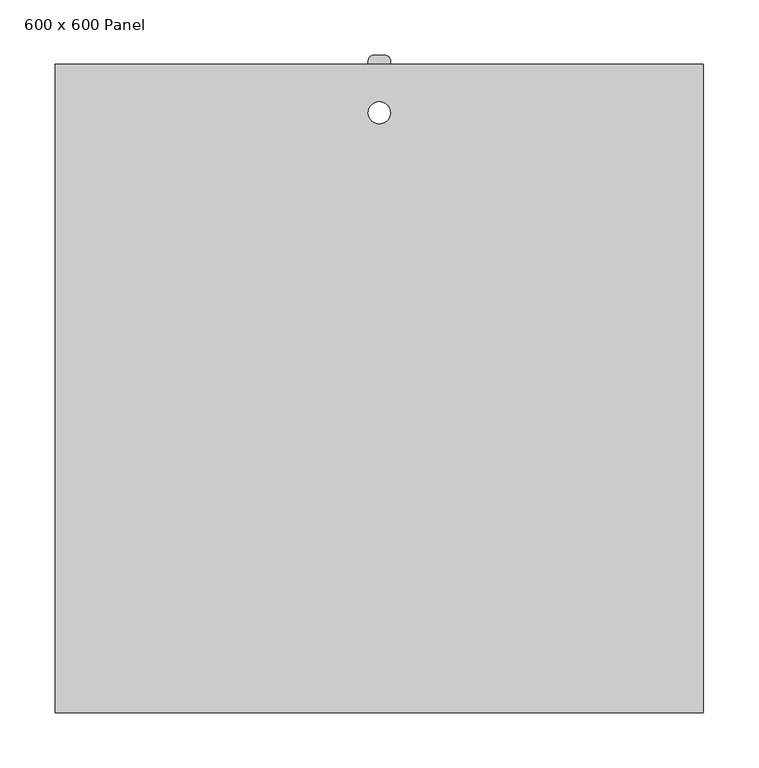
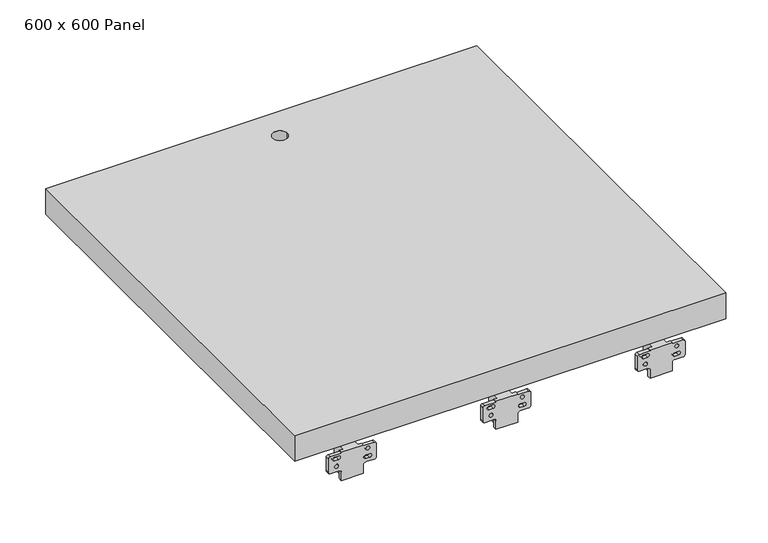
"""IFC4 building model written with IfcOpenShell, lengths in millimetres: proxy geometry, 600 x 600 Fyreshield : 600 x 600 Panel."""

from ifc_helpers import new_model, si_unit, point, frame, frame_2d, origin, place, context, project, spatial, polyline, circle_curve, trimmed, segment, composite_curve, outline, extrude, source, transform, mapped, element, save
from ifc_brep_helpers import plane_surface, cylinder_surface, revolved_surface, advanced_brep


def proxy_600_x_600_panel_0ffa8e7a(model_context):
    return source(origin(), model_context, "Body", "SolidModel", [
        extrude(outline(composite_curve([segment(trimmed(circle_curve(frame_2d((-265.0, -49.3136739)), 5.0), [point((-270.0, -49.3136739))], [point((-265.0, -44.3136739))], False, "CARTESIAN"), True, "CONTINUOUS"), segment(polyline([(-265.0, -44.3136739), (-255.6315148, -43.0), (-234.3304501, -43.0), (-234.3304501, -47.4449364)]), True, "CONTINUOUS"), segment(trimmed(circle_curve(frame_2d((-239.3304501, -47.4449364)), 5.0), [point((-234.3304501, -47.4449364))], [point((-239.3304501, -52.4449364))], False, "CARTESIAN"), True, "CONTINUOUS"), segment(polyline([(-239.3304501, -52.4449364), (-257.5, -52.4449364)]), True, "CONTINUOUS"), segment(trimmed(circle_curve(frame_2d((-257.5, -54.9449364)), 2.5), [point((-257.5, -52.4449364))], [point((-260.0, -54.9449364))], True, "CARTESIAN"), True, "CONTINUOUS"), segment(polyline([(-260.0, -54.9449364), (-260.0, -56.8136739), (-270.0, -56.8136739), (-270.0, -49.3136739)]), True, "CONTINUOUS")], self_intersect=False)), frame((200.0, 0.0, 0.0), z_axis=(1.0, 0.0, 0.0), x_axis=(0.0, 1.0, 0.0)), (0.0, 0.0, 1.0), 20.0),
        extrude(outline(composite_curve([segment(trimmed(circle_curve(frame_2d((-265.0, -49.3136739)), 5.0), [point((-270.0, -49.3136739))], [point((-265.0, -44.3136739))], False, "CARTESIAN"), True, "CONTINUOUS"), segment(polyline([(-265.0, -44.3136739), (-255.6315148, -43.0), (-234.3304501, -43.0), (-234.3304501, -47.4449364)]), True, "CONTINUOUS"), segment(trimmed(circle_curve(frame_2d((-239.3304501, -47.4449364)), 5.0), [point((-234.3304501, -47.4449364))], [point((-239.3304501, -52.4449364))], False, "CARTESIAN"), True, "CONTINUOUS"), segment(polyline([(-239.3304501, -52.4449364), (-257.5, -52.4449364)]), True, "CONTINUOUS"), segment(trimmed(circle_curve(frame_2d((-257.5, -54.9449364)), 2.5), [point((-257.5, -52.4449364))], [point((-260.0, -54.9449364))], True, "CARTESIAN"), True, "CONTINUOUS"), segment(polyline([(-260.0, -54.9449364), (-260.0, -56.8136739), (-270.0, -56.8136739), (-270.0, -49.3136739)]), True, "CONTINUOUS")], self_intersect=False)), frame((-10.0, 0.0, 0.0), z_axis=(1.0, 0.0, 0.0), x_axis=(0.0, 1.0, 0.0)), (0.0, 0.0, 1.0), 20.0),
        extrude(outline(polyline([(293.0, 293.0), (293.0, -293.0), (-293.0, -293.0), (-293.0, 293.0), (293.0, 293.0)]), holes=[composite_curve([segment(trimmed(circle_curve(frame_2d((0.0, 249.0)), 10.0), [point((-10.0, 249.0))], [point((10.0, 249.0))], True, "CARTESIAN"), True, "CONTINUOUS"), segment(trimmed(circle_curve(frame_2d((0.0, 249.0)), 10.0), [point((10.0, 249.0))], [point((-10.0, 249.0))], True, "CARTESIAN"), True, "CONTINUOUS")], self_intersect=False)]), frame((0.0, 0.0, -41.0), z_axis=(0.0, 0.0, 1.0), x_axis=(1.0, 0.0, 0.0)), (0.0, 0.0, 1.0), 37.0),
        advanced_brep(
        [(-220.0, -270.0, -49.3136739), (-220.0, -265.0, -44.3136739), (-220.0, -248.5, -42.0), (-220.0, -234.3304501, -42.0), (-220.0, -234.3304501, -47.4449364), (-220.0, -239.3304501, -52.4449364), (-220.0, -257.5, -52.4449364), (-220.0, -260.0, -54.9449364), (-220.0, -260.0, -97.128369), (-220.0, -280.0, -97.128369), (-220.0, -280.0, -56.8136739), (-220.0, -270.0, -56.8136739), (-200.0, -270.0, -49.3136739), (-200.0, -270.0, -56.8136739), (-200.0, -280.0, -56.8136739), (-200.0, -280.0, -97.128369), (-200.0, -260.0, -97.128369), (-200.0, -260.0, -54.9449364), (-200.0, -257.5, -52.4449364), (-200.0, -239.3304501, -52.4449364), (-200.0, -234.3304501, -47.4449364), (-200.0, -234.3304501, -42.0), (-200.0, -248.5, -42.0), (-200.0, -265.0, -44.3136739), (-240.020868, -280.0, -82.0), (-230.0, -280.0, -82.0), (-230.0, -285.0, -82.0), (-240.020868, -285.0, -82.0), (-242.520868, -280.0, -79.5), (-242.520868, -285.0, -79.5), (-242.520868, -280.0, -60.3136739), (-242.520868, -285.0, -60.3136739), (-240.020868, -280.0, -57.8136739), (-240.020868, -285.0, -57.8136739), (-227.5, -280.0, -82.0), (-225.0, -280.0, -84.5), (-225.0, -285.0, -84.5), (-227.5, -285.0, -82.0), (-192.5, -280.0, -82.0), (-190.0, -280.0, -82.0), (-190.0, -285.0, -82.0), (-192.5, -285.0, -82.0), (-195.0, -280.0, -84.5), (-195.0, -285.0, -84.5), (-177.479132, -280.0, -60.3136739), (-179.979132, -280.0, -57.8136739), (-179.979132, -285.0, -57.8136739), (-177.479132, -285.0, -60.3136739), (-177.479132, -280.0, -79.5), (-177.479132, -285.0, -79.5), (-179.979132, -280.0, -82.0), (-179.979132, -285.0, -82.0), (-191.239566, -280.0, -63.2011546), (-191.239566, -285.0, -63.2011546), (-186.239566, -285.0, -63.2011546), (-186.239566, -280.0, -63.2011546), (-186.239566, -280.0, -77.1125194), (-186.239566, -285.0, -77.1125194), (-186.239566, -285.0, -72.1125194), (-186.239566, -280.0, -72.1125194), (-191.239566, -280.0, -77.1125194), (-191.239566, -285.0, -77.1125194), (-191.239566, -280.0, -72.1125194), (-191.239566, -285.0, -72.1125194), (-233.760434, -280.0, -74.6125194), (-233.760434, -285.0, -74.6125194), (-228.760434, -285.0, -74.6125194), (-228.760434, -280.0, -74.6125194), (-233.760434, -280.0, -65.7011546), (-233.760434, -285.0, -65.7011546), (-228.760434, -285.0, -65.7011546), (-228.760434, -280.0, -65.7011546), (-233.760434, -280.0, -60.7011546), (-233.760434, -285.0, -60.7011546), (-228.760434, -280.0, -60.7011546), (-228.760434, -285.0, -60.7011546), (-225.0, -280.0, -57.8136739), (-225.0, -280.0, -56.8136739), (-225.0, -280.0, -97.128369), (-195.0, -280.0, -97.128369), (-195.0, -280.0, -56.8136739), (-195.0, -280.0, -57.8136739), (-225.0, -285.0, -97.128369), (-195.0, -285.0, -97.128369), (-195.0, -285.0, -57.8136739), (-195.0, -285.0, -56.8136739), (-225.0, -285.0, -56.8136739), (-225.0, -285.0, -57.8136739)],
        [
            (0, 1, circle_curve(frame((-220.0, -265.0, -49.3136739), z_axis=(-1.0, 0.0, 0.0), x_axis=(0.0, 1.0, 0.0)), 5.0)),
            (1, 2),
            (2, 3),
            (3, 4),
            (4, 5, circle_curve(frame((-220.0, -239.3304501, -47.4449364), z_axis=(-1.0, 0.0, 0.0), x_axis=(0.0, 1.0, 0.0)), 5.0)),
            (5, 6),
            (6, 7, circle_curve(frame((-220.0, -257.5, -54.9449364), z_axis=(1.0, 0.0, 0.0), x_axis=(0.0, 1.0, 0.0)), 2.5)),
            (7, 8),
            (8, 9),
            (9, 10),
            (10, 11),
            (11, 0),
            (12, 13),
            (13, 14),
            (14, 15),
            (15, 16),
            (16, 17),
            (17, 18, circle_curve(frame((-200.0, -257.5, -54.9449364), z_axis=(-1.0, 0.0, 0.0), x_axis=(0.0, 1.0, 0.0)), 2.5)),
            (18, 19),
            (19, 20, circle_curve(frame((-200.0, -239.3304501, -47.4449364), z_axis=(1.0, 0.0, 0.0), x_axis=(0.0, 1.0, 0.0)), 5.0)),
            (20, 21),
            (21, 22),
            (22, 23),
            (23, 12, circle_curve(frame((-200.0, -265.0, -49.3136739), z_axis=(1.0, 0.0, 0.0), x_axis=(0.0, 1.0, 0.0)), 5.0)),
            (11, 13),
            (12, 0),
            (7, 17),
            (16, 8),
            (6, 18),
            (5, 19),
            (4, 20),
            (3, 21),
            (2, 22),
            (1, 23),
            (24, 25),
            (25, 26),
            (26, 27),
            (27, 24),
            (28, 24, circle_curve(frame((-240.020868, -280.0, -79.5), z_axis=(0.0, -1.0, 0.0), x_axis=(-1.0, 0.0, 0.0)), 2.5)),
            (27, 29, circle_curve(frame((-240.020868, -285.0, -79.5), z_axis=(0.0, 1.0, 0.0), x_axis=(-1.0, 0.0, 0.0)), 2.5)),
            (29, 28),
            (30, 28),
            (29, 31),
            (31, 30),
            (32, 30, circle_curve(frame((-240.020868, -280.0, -60.3136739), z_axis=(0.0, -1.0, 0.0), x_axis=(-1.0, 0.0, 0.0)), 2.5)),
            (31, 33, circle_curve(frame((-240.020868, -285.0, -60.3136739), z_axis=(0.0, 1.0, 0.0), x_axis=(-1.0, 0.0, 0.0)), 2.5)),
            (33, 32),
            (34, 35, circle_curve(frame((-227.5, -280.0, -84.5), z_axis=(0.0, 1.0, 0.0), x_axis=(-1.0, 0.0, 0.0)), 2.5)),
            (35, 36),
            (36, 37, circle_curve(frame((-227.5, -285.0, -84.5), z_axis=(0.0, -1.0, 0.0), x_axis=(-1.0, 0.0, 0.0)), 2.5)),
            (37, 34),
            (25, 34),
            (37, 26),
            (38, 39),
            (39, 40),
            (40, 41),
            (41, 38),
            (42, 38, circle_curve(frame((-192.5, -280.0, -84.5), z_axis=(0.0, 1.0, 0.0), x_axis=(-1.0, 0.0, 0.0)), 2.5)),
            (41, 43, circle_curve(frame((-192.5, -285.0, -84.5), z_axis=(0.0, -1.0, 0.0), x_axis=(-1.0, 0.0, 0.0)), 2.5)),
            (43, 42),
            (44, 45, circle_curve(frame((-179.979132, -280.0, -60.3136739), z_axis=(0.0, -1.0, 0.0), x_axis=(-1.0, 0.0, 0.0)), 2.5)),
            (45, 46),
            (46, 47, circle_curve(frame((-179.979132, -285.0, -60.3136739), z_axis=(0.0, 1.0, 0.0), x_axis=(-1.0, 0.0, 0.0)), 2.5)),
            (47, 44),
            (48, 44),
            (47, 49),
            (49, 48),
            (50, 48, circle_curve(frame((-179.979132, -280.0, -79.5), z_axis=(0.0, -1.0, 0.0), x_axis=(-1.0, 0.0, 0.0)), 2.5)),
            (49, 51, circle_curve(frame((-179.979132, -285.0, -79.5), z_axis=(0.0, 1.0, 0.0), x_axis=(-1.0, 0.0, 0.0)), 2.5)),
            (51, 50),
            (39, 50),
            (51, 40),
            (52, 53),
            (53, 54, circle_curve(frame((-188.739566, -285.0, -63.2011546), z_axis=(0.0, -1.0, 0.0), x_axis=(-1.0, 0.0, 0.0)), 2.5)),
            (54, 55),
            (55, 52, circle_curve(frame((-188.739566, -280.0, -63.2011546), z_axis=(0.0, 1.0, 0.0), x_axis=(-1.0, 0.0, 0.0)), 2.5)),
            (52, 55, circle_curve(frame((-188.739566, -280.0, -63.2011546), z_axis=(0.0, 1.0, 0.0), x_axis=(-1.0, 0.0, 0.0)), 2.5)),
            (54, 53, circle_curve(frame((-188.739566, -285.0, -63.2011546), z_axis=(0.0, -1.0, 0.0), x_axis=(-1.0, 0.0, 0.0)), 2.5)),
            (56, 57),
            (57, 58, circle_curve(frame((-186.239566, -285.0, -74.6125194), z_axis=(0.0, -1.0, 0.0), x_axis=(-1.0, 0.0, 0.0)), 2.5)),
            (58, 59),
            (59, 56, circle_curve(frame((-186.239566, -280.0, -74.6125194), z_axis=(0.0, 1.0, 0.0), x_axis=(-1.0, 0.0, 0.0)), 2.5)),
            (56, 60),
            (60, 61),
            (61, 57),
            (60, 62, circle_curve(frame((-191.239566, -280.0, -74.6125194), z_axis=(0.0, 1.0, 0.0), x_axis=(-1.0, 0.0, 0.0)), 2.5)),
            (62, 63),
            (63, 61, circle_curve(frame((-191.239566, -285.0, -74.6125194), z_axis=(0.0, -1.0, 0.0), x_axis=(-1.0, 0.0, 0.0)), 2.5)),
            (58, 63),
            (62, 59),
            (64, 65),
            (65, 66, circle_curve(frame((-231.260434, -285.0, -74.6125194), z_axis=(0.0, -1.0, 0.0), x_axis=(-1.0, 0.0, 0.0)), 2.5)),
            (66, 67),
            (67, 64, circle_curve(frame((-231.260434, -280.0, -74.6125194), z_axis=(0.0, 1.0, 0.0), x_axis=(-1.0, 0.0, 0.0)), 2.5)),
            (64, 67, circle_curve(frame((-231.260434, -280.0, -74.6125194), z_axis=(0.0, 1.0, 0.0), x_axis=(-1.0, 0.0, 0.0)), 2.5)),
            (66, 65, circle_curve(frame((-231.260434, -285.0, -74.6125194), z_axis=(0.0, -1.0, 0.0), x_axis=(-1.0, 0.0, 0.0)), 2.5)),
            (68, 69),
            (69, 70),
            (70, 71),
            (71, 68),
            (68, 72, circle_curve(frame((-233.760434, -280.0, -63.2011546), z_axis=(0.0, 1.0, 0.0), x_axis=(-1.0, 0.0, 0.0)), 2.5)),
            (72, 73),
            (73, 69, circle_curve(frame((-233.760434, -285.0, -63.2011546), z_axis=(0.0, -1.0, 0.0), x_axis=(-1.0, 0.0, 0.0)), 2.5)),
            (72, 74),
            (74, 75),
            (75, 73),
            (70, 75, circle_curve(frame((-228.760434, -285.0, -63.2011546), z_axis=(0.0, -1.0, 0.0), x_axis=(-1.0, 0.0, 0.0)), 2.5)),
            (74, 71, circle_curve(frame((-228.760434, -280.0, -63.2011546), z_axis=(0.0, 1.0, 0.0), x_axis=(-1.0, 0.0, 0.0)), 2.5)),
            (32, 76),
            (76, 77),
            (77, 10),
            (9, 78),
            (78, 35),
            (42, 79),
            (79, 15),
            (14, 80),
            (80, 81),
            (81, 45),
            (36, 82),
            (82, 83),
            (83, 43),
            (46, 84),
            (84, 85),
            (85, 86),
            (86, 87),
            (87, 33),
            (87, 76),
            (81, 84),
            (77, 86),
            (85, 80),
            (79, 83),
            (82, 78),
        ],
        [
            plane_surface(frame((-220.0, -270.0, -56.8136739), z_axis=(-1.0, 0.0, 0.0), x_axis=(0.0, 0.0, 1.0))),
            plane_surface(frame((-200.0, -270.0, -56.8136739), z_axis=(1.0, 0.0, 0.0), x_axis=(0.0, 0.0, -1.0))),
            plane_surface(frame((-200.0, -270.0, -49.3136739), z_axis=(0.0, -1.0, 0.0), x_axis=(-1.0, 0.0, 0.0))),
            plane_surface(frame((-200.0, -260.0, -56.8136739), z_axis=(0.0, 1.0, 0.0), x_axis=(-1.0, 0.0, 0.0))),
            revolved_surface(polyline([(-220.0, -255.0, -54.9449364), (-200.0, -255.0, -54.9449364)]), (-220.0, -257.5, -54.9449364), (-1.0, 0.0, 0.0)),
            plane_surface(frame((-200.0, -257.5, -52.4449364), z_axis=(0.0, 0.0, -1.0), x_axis=(-1.0, 0.0, 0.0))),
            cylinder_surface(frame((-220.0, -239.3304501, -47.4449364), z_axis=(1.0, 0.0, 0.0), x_axis=(0.0, 1.0, 0.0)), 5.0),
            plane_surface(frame((-200.0, -234.3304501, -47.4449364), z_axis=(0.0, 1.0, 0.0), x_axis=(-1.0, 0.0, 0.0))),
            plane_surface(frame((-200.0, -234.3304501, -42.0), z_axis=(0.0, 0.0, 1.0), x_axis=(-1.0, 0.0, 0.0))),
            plane_surface(frame((-200.0, -248.5, -42.0), z_axis=(0.0, -0.1388641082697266, 0.9903114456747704), x_axis=(-1.0, 0.0, 0.0))),
            cylinder_surface(frame((-220.0, -265.0, -49.3136739), z_axis=(1.0, 0.0, 0.0), x_axis=(0.0, 1.0, 0.0)), 5.0),
            plane_surface(frame((-230.0, -280.0, -82.0), z_axis=(0.0, 0.0, -1.0), x_axis=(0.0, -1.0, 0.0))),
            cylinder_surface(frame((-240.020868, -285.0, -79.5), z_axis=(0.0, 1.0, 0.0), x_axis=(-1.0, 0.0, 0.0)), 2.5),
            plane_surface(frame((-242.520868, -280.0, -79.5), z_axis=(-1.0, 0.0, 0.0), x_axis=(0.0, -1.0, 0.0))),
            cylinder_surface(frame((-240.020868, -285.0, -60.3136739), z_axis=(0.0, 1.0, 0.0), x_axis=(-1.0, 0.0, 0.0)), 2.5),
            revolved_surface(polyline([(-230.0, -285.0, -84.5), (-230.0, -280.0, -84.5)]), (-227.5, -285.0, -84.5), (0.0, -1.0, 0.0)),
            plane_surface(frame((-227.5, -280.0, -82.0), z_axis=(0.0, 0.0, -1.0), x_axis=(0.0, -1.0, 0.0))),
            plane_surface(frame((-190.0, -280.0, -82.0), z_axis=(0.0, 0.0, -1.0), x_axis=(0.0, -1.0, 0.0))),
            revolved_surface(polyline([(-195.0, -285.0, -84.5), (-195.0, -280.0, -84.5)]), (-192.5, -285.0, -84.5), (0.0, -1.0, 0.0)),
            cylinder_surface(frame((-179.979132, -285.0, -60.3136739), z_axis=(0.0, 1.0, 0.0), x_axis=(-1.0, 0.0, 0.0)), 2.5),
            plane_surface(frame((-177.479132, -280.0, -60.3136739), z_axis=(1.0, 0.0, 0.0), x_axis=(0.0, -1.0, 0.0))),
            cylinder_surface(frame((-179.979132, -285.0, -79.5), z_axis=(0.0, 1.0, 0.0), x_axis=(-1.0, 0.0, 0.0)), 2.5),
            plane_surface(frame((-179.979132, -280.0, -82.0), z_axis=(0.0, 0.0, -1.0), x_axis=(0.0, -1.0, 0.0))),
            revolved_surface(polyline([(-191.239566, -280.0, -63.2011546), (-191.239566, -285.0, -63.2011546)]), (-188.739566, -280.0, -63.2011546), (0.0, 1.0, 0.0)),
            revolved_surface(polyline([(-188.739566, -280.0, -74.6125194), (-188.739566, -285.0, -74.6125194)]), (-186.239566, -280.0, -74.6125194), (0.0, 1.0, 0.0)),
            plane_surface(frame((-186.239566, -280.0, -77.1125194), z_axis=(0.0, 0.0, 1.0), x_axis=(0.0, -1.0, 0.0))),
            revolved_surface(polyline([(-193.739566, -280.0, -74.6125194), (-193.739566, -285.0, -74.6125194)]), (-191.239566, -280.0, -74.6125194), (0.0, 1.0, 0.0)),
            plane_surface(frame((-191.239566, -280.0, -72.1125194), z_axis=(0.0, 0.0, -1.0), x_axis=(0.0, -1.0, 0.0))),
            revolved_surface(polyline([(-233.760434, -280.0, -74.6125194), (-233.760434, -285.0, -74.6125194)]), (-231.260434, -280.0, -74.6125194), (0.0, 1.0, 0.0)),
            plane_surface(frame((-228.760434, -280.0, -65.7011546), z_axis=(0.0, 0.0, 1.0), x_axis=(0.0, -1.0, 0.0))),
            revolved_surface(polyline([(-236.260434, -280.0, -63.2011546), (-236.260434, -285.0, -63.2011546)]), (-233.760434, -280.0, -63.2011546), (0.0, 1.0, 0.0)),
            plane_surface(frame((-233.760434, -280.0, -60.7011546), z_axis=(0.0, 0.0, -1.0), x_axis=(0.0, -1.0, 0.0))),
            revolved_surface(polyline([(-231.260434, -280.0, -63.2011546), (-231.260434, -285.0, -63.2011546)]), (-228.760434, -280.0, -63.2011546), (0.0, 1.0, 0.0)),
            plane_surface(frame((190.0, -280.0, -82.0), z_axis=(0.0, 1.0, 0.0), x_axis=(-1.0, 0.0, 0.0))),
            plane_surface(frame((190.0, -285.0, -82.0), z_axis=(0.0, -1.0, 0.0), x_axis=(1.0, 0.0, 0.0))),
            plane_surface(frame((-240.020868, -280.0, -57.8136739), z_axis=(0.0, 0.0, 1.0), x_axis=(0.0, -1.0, 0.0))),
            plane_surface(frame((-195.0, -280.0, -57.8136739), z_axis=(0.0, 0.0, 1.0), x_axis=(0.0, -1.0, 0.0))),
            plane_surface(frame((-225.0, -285.0, -56.8136739), z_axis=(0.0, 0.0, 1.0), x_axis=(0.0, -1.0, 0.0))),
            plane_surface(frame((-225.0, -285.0, -97.128369), z_axis=(0.0, 0.0, -1.0), x_axis=(0.0, 1.0, 0.0))),
            plane_surface(frame((-225.0, -280.0, -56.8136739), z_axis=(-1.0, 0.0, 0.0), x_axis=(0.0, 0.0, -1.0))),
            plane_surface(frame((-195.0, -285.0, -56.8136739), z_axis=(1.0, 0.0, 0.0), x_axis=(0.0, 0.0, -1.0))),
        ],
        [
            (0, [[1, 2, 3, 4, 5, 6, 7, 8, 9, 10, 11, 12]]),
            (1, [[13, 14, 15, 16, 17, 18, 19, 20, 21, 22, 23, 24]]),
            (2, [[-12, 25, -13, 26]]),
            (3, [[-8, 27, -17, 28]]),
            (4, [[-7, 29, -18, -27]]),
            (5, [[-6, 30, -19, -29]]),
            (6, [[-5, 31, -20, -30]]),
            (7, [[-4, 32, -21, -31]]),
            (8, [[-3, 33, -22, -32]]),
            (9, [[-2, 34, -23, -33]]),
            (10, [[-1, -26, -24, -34]]),
            (11, [[35, 36, 37, 38]]),
            (12, [[39, -38, 40, 41]]),
            (13, [[42, -41, 43, 44]]),
            (14, [[45, -44, 46, 47]]),
            (15, [[48, 49, 50, 51]]),
            (16, [[52, -51, 53, -36]]),
            (17, [[54, 55, 56, 57]]),
            (18, [[58, -57, 59, 60]]),
            (19, [[61, 62, 63, 64]]),
            (20, [[65, -64, 66, 67]]),
            (21, [[68, -67, 69, 70]]),
            (22, [[71, -70, 72, -55]]),
            (23, [[73, 74, 75, 76]]),
            (23, [[-73, 77, -75, 78]]),
            (24, [[79, 80, 81, 82]]),
            (25, [[-79, 83, 84, 85]]),
            (26, [[-84, 86, 87, 88]]),
            (27, [[-81, 89, -87, 90]]),
            (28, [[91, 92, 93, 94]]),
            (28, [[-91, 95, -93, 96]]),
            (29, [[97, 98, 99, 100]]),
            (30, [[-97, 101, 102, 103]]),
            (31, [[-102, 104, 105, 106]]),
            (32, [[-99, 107, -105, 108]]),
            (33, [[-35, -39, -42, -45, 109, 110, 111, -10, 112, 113, -48, -52], [-94, -95], [-100, -108, -104, -101]]),
            (33, [[-54, -58, 114, 115, -15, 116, 117, 118, -61, -65, -68, -71], [-76, -77], [-82, -90, -86, -83]]),
            (34, [[-53, -50, 119, 120, 121, -59, -56, -72, -69, -66, -63, 122, 123, 124, 125, 126, -46, -43, -40, -37], [-74, -78], [-80, -85, -88, -89], [-92, -96], [-98, -103, -106, -107]]),
            (35, [[-109, -47, -126, 127]]),
            (36, [[-118, 128, -122, -62]]),
            (37, [[129, -124, 130, -116, -14, -25, -11, -111]]),
            (38, [[-112, -9, -28, -16, -115, 131, -120, 132]]),
            (39, [[-129, -110, -127, -125]]),
            (39, [[-132, -119, -49, -113]]),
            (40, [[-130, -123, -128, -117]]),
            (40, [[-131, -114, -60, -121]]),
        ],
    ),
        advanced_brep(
        [(179.979132, -280.0, -82.0), (190.0, -280.0, -82.0), (190.0, -285.0, -82.0), (179.979132, -285.0, -82.0), (177.479132, -280.0, -79.5), (177.479132, -285.0, -79.5), (177.479132, -280.0, -60.3136739), (177.479132, -285.0, -60.3136739), (179.979132, -280.0, -57.8136739), (179.979132, -285.0, -57.8136739), (192.5, -280.0, -82.0), (195.0, -280.0, -84.5), (195.0, -285.0, -84.5), (192.5, -285.0, -82.0), (227.5, -280.0, -82.0), (230.0, -280.0, -82.0), (230.0, -285.0, -82.0), (227.5, -285.0, -82.0), (225.0, -280.0, -84.5), (225.0, -285.0, -84.5), (242.520868, -280.0, -60.3136739), (240.020868, -280.0, -57.8136739), (240.020868, -285.0, -57.8136739), (242.520868, -285.0, -60.3136739), (242.520868, -280.0, -79.5), (242.520868, -285.0, -79.5), (240.020868, -280.0, -82.0), (240.020868, -285.0, -82.0), (228.760434, -280.0, -63.2011546), (228.760434, -285.0, -63.2011546), (233.760434, -285.0, -63.2011546), (233.760434, -280.0, -63.2011546), (233.760434, -280.0, -77.1125194), (233.760434, -285.0, -77.1125194), (233.760434, -285.0, -72.1125194), (233.760434, -280.0, -72.1125194), (228.760434, -280.0, -77.1125194), (228.760434, -285.0, -77.1125194), (228.760434, -280.0, -72.1125194), (228.760434, -285.0, -72.1125194), (186.239566, -280.0, -74.6125194), (186.239566, -285.0, -74.6125194), (191.239566, -285.0, -74.6125194), (191.239566, -280.0, -74.6125194), (186.239566, -280.0, -65.7011546), (186.239566, -285.0, -65.7011546), (191.239566, -285.0, -65.7011546), (191.239566, -280.0, -65.7011546), (186.239566, -280.0, -60.7011546), (186.239566, -285.0, -60.7011546), (191.239566, -280.0, -60.7011546), (191.239566, -285.0, -60.7011546), (195.0, -280.0, -57.8136739), (195.0, -280.0, -56.8136739), (200.0, -280.0, -56.8136739), (200.0, -280.0, -97.128369), (195.0, -280.0, -97.128369), (225.0, -280.0, -97.128369), (220.0, -280.0, -97.128369), (220.0, -280.0, -56.8136739), (225.0, -280.0, -56.8136739), (225.0, -280.0, -57.8136739), (195.0, -285.0, -97.128369), (225.0, -285.0, -97.128369), (225.0, -285.0, -57.8136739), (225.0, -285.0, -56.8136739), (195.0, -285.0, -56.8136739), (195.0, -285.0, -57.8136739), (220.0, -260.0, -56.8136739), (200.0, -260.0, -56.8136739), (200.0, -260.0, -97.128369), (220.0, -260.0, -97.128369)],
        [
            (0, 1),
            (1, 2),
            (2, 3),
            (3, 0),
            (4, 0, circle_curve(frame((179.979132, -280.0, -79.5), z_axis=(0.0, -1.0, 0.0), x_axis=(-1.0, 0.0, 0.0)), 2.5)),
            (3, 5, circle_curve(frame((179.979132, -285.0, -79.5), z_axis=(0.0, 1.0, 0.0), x_axis=(-1.0, 0.0, 0.0)), 2.5)),
            (5, 4),
            (6, 4),
            (5, 7),
            (7, 6),
            (8, 6, circle_curve(frame((179.979132, -280.0, -60.3136739), z_axis=(0.0, -1.0, 0.0), x_axis=(-1.0, 0.0, 0.0)), 2.5)),
            (7, 9, circle_curve(frame((179.979132, -285.0, -60.3136739), z_axis=(0.0, 1.0, 0.0), x_axis=(-1.0, 0.0, 0.0)), 2.5)),
            (9, 8),
            (10, 11, circle_curve(frame((192.5, -280.0, -84.5), z_axis=(0.0, 1.0, 0.0), x_axis=(-1.0, 0.0, 0.0)), 2.5)),
            (11, 12),
            (12, 13, circle_curve(frame((192.5, -285.0, -84.5), z_axis=(0.0, -1.0, 0.0), x_axis=(-1.0, 0.0, 0.0)), 2.5)),
            (13, 10),
            (1, 10),
            (13, 2),
            (14, 15),
            (15, 16),
            (16, 17),
            (17, 14),
            (18, 14, circle_curve(frame((227.5, -280.0, -84.5), z_axis=(0.0, 1.0, 0.0), x_axis=(-1.0, 0.0, 0.0)), 2.5)),
            (17, 19, circle_curve(frame((227.5, -285.0, -84.5), z_axis=(0.0, -1.0, 0.0), x_axis=(-1.0, 0.0, 0.0)), 2.5)),
            (19, 18),
            (20, 21, circle_curve(frame((240.020868, -280.0, -60.3136739), z_axis=(0.0, -1.0, 0.0), x_axis=(-1.0, 0.0, 0.0)), 2.5)),
            (21, 22),
            (22, 23, circle_curve(frame((240.020868, -285.0, -60.3136739), z_axis=(0.0, 1.0, 0.0), x_axis=(-1.0, 0.0, 0.0)), 2.5)),
            (23, 20),
            (24, 20),
            (23, 25),
            (25, 24),
            (26, 24, circle_curve(frame((240.020868, -280.0, -79.5), z_axis=(0.0, -1.0, 0.0), x_axis=(-1.0, 0.0, 0.0)), 2.5)),
            (25, 27, circle_curve(frame((240.020868, -285.0, -79.5), z_axis=(0.0, 1.0, 0.0), x_axis=(-1.0, 0.0, 0.0)), 2.5)),
            (27, 26),
            (15, 26),
            (27, 16),
            (28, 29),
            (29, 30, circle_curve(frame((231.260434, -285.0, -63.2011546), z_axis=(0.0, -1.0, 0.0), x_axis=(-1.0, 0.0, 0.0)), 2.5)),
            (30, 31),
            (31, 28, circle_curve(frame((231.260434, -280.0, -63.2011546), z_axis=(0.0, 1.0, 0.0), x_axis=(-1.0, 0.0, 0.0)), 2.5)),
            (28, 31, circle_curve(frame((231.260434, -280.0, -63.2011546), z_axis=(0.0, 1.0, 0.0), x_axis=(-1.0, 0.0, 0.0)), 2.5)),
            (30, 29, circle_curve(frame((231.260434, -285.0, -63.2011546), z_axis=(0.0, -1.0, 0.0), x_axis=(-1.0, 0.0, 0.0)), 2.5)),
            (32, 33),
            (33, 34, circle_curve(frame((233.760434, -285.0, -74.6125194), z_axis=(0.0, -1.0, 0.0), x_axis=(-1.0, 0.0, 0.0)), 2.5)),
            (34, 35),
            (35, 32, circle_curve(frame((233.760434, -280.0, -74.6125194), z_axis=(0.0, 1.0, 0.0), x_axis=(-1.0, 0.0, 0.0)), 2.5)),
            (32, 36),
            (36, 37),
            (37, 33),
            (36, 38, circle_curve(frame((228.760434, -280.0, -74.6125194), z_axis=(0.0, 1.0, 0.0), x_axis=(-1.0, 0.0, 0.0)), 2.5)),
            (38, 39),
            (39, 37, circle_curve(frame((228.760434, -285.0, -74.6125194), z_axis=(0.0, -1.0, 0.0), x_axis=(-1.0, 0.0, 0.0)), 2.5)),
            (34, 39),
            (38, 35),
            (40, 41),
            (41, 42, circle_curve(frame((188.739566, -285.0, -74.6125194), z_axis=(0.0, -1.0, 0.0), x_axis=(-1.0, 0.0, 0.0)), 2.5)),
            (42, 43),
            (43, 40, circle_curve(frame((188.739566, -280.0, -74.6125194), z_axis=(0.0, 1.0, 0.0), x_axis=(-1.0, 0.0, 0.0)), 2.5)),
            (40, 43, circle_curve(frame((188.739566, -280.0, -74.6125194), z_axis=(0.0, 1.0, 0.0), x_axis=(-1.0, 0.0, 0.0)), 2.5)),
            (42, 41, circle_curve(frame((188.739566, -285.0, -74.6125194), z_axis=(0.0, -1.0, 0.0), x_axis=(-1.0, 0.0, 0.0)), 2.5)),
            (44, 45),
            (45, 46),
            (46, 47),
            (47, 44),
            (44, 48, circle_curve(frame((186.239566, -280.0, -63.2011546), z_axis=(0.0, 1.0, 0.0), x_axis=(-1.0, 0.0, 0.0)), 2.5)),
            (48, 49),
            (49, 45, circle_curve(frame((186.239566, -285.0, -63.2011546), z_axis=(0.0, -1.0, 0.0), x_axis=(-1.0, 0.0, 0.0)), 2.5)),
            (48, 50),
            (50, 51),
            (51, 49),
            (46, 51, circle_curve(frame((191.239566, -285.0, -63.2011546), z_axis=(0.0, -1.0, 0.0), x_axis=(-1.0, 0.0, 0.0)), 2.5)),
            (50, 47, circle_curve(frame((191.239566, -280.0, -63.2011546), z_axis=(0.0, 1.0, 0.0), x_axis=(-1.0, 0.0, 0.0)), 2.5)),
            (8, 52),
            (52, 53),
            (53, 54),
            (54, 55),
            (55, 56),
            (56, 11),
            (18, 57),
            (57, 58),
            (58, 59),
            (59, 60),
            (60, 61),
            (61, 21),
            (12, 62),
            (62, 63),
            (63, 19),
            (22, 64),
            (64, 65),
            (65, 66),
            (66, 67),
            (67, 9),
            (67, 52),
            (61, 64),
            (53, 66),
            (65, 60),
            (59, 68),
            (68, 69),
            (69, 54),
            (55, 70),
            (70, 71),
            (71, 58),
            (57, 63),
            (62, 56),
            (71, 68),
            (70, 69),
        ],
        [
            plane_surface(frame((190.0, -280.0, -82.0), z_axis=(0.0, 0.0, -1.0), x_axis=(0.0, -1.0, 0.0))),
            cylinder_surface(frame((179.979132, -285.0, -79.5), z_axis=(0.0, 1.0, 0.0), x_axis=(-1.0, 0.0, 0.0)), 2.5),
            plane_surface(frame((177.479132, -280.0, -79.5), z_axis=(-1.0, 0.0, 0.0), x_axis=(0.0, -1.0, 0.0))),
            cylinder_surface(frame((179.979132, -285.0, -60.3136739), z_axis=(0.0, 1.0, 0.0), x_axis=(-1.0, 0.0, 0.0)), 2.5),
            revolved_surface(polyline([(190.0, -285.0, -84.5), (190.0, -280.0, -84.5)]), (192.5, -285.0, -84.5), (0.0, -1.0, 0.0)),
            plane_surface(frame((192.5, -280.0, -82.0), z_axis=(0.0, 0.0, -1.0), x_axis=(0.0, -1.0, 0.0))),
            plane_surface(frame((230.0, -280.0, -82.0), z_axis=(0.0, 0.0, -1.0), x_axis=(0.0, -1.0, 0.0))),
            revolved_surface(polyline([(225.0, -285.0, -84.5), (225.0, -280.0, -84.5)]), (227.5, -285.0, -84.5), (0.0, -1.0, 0.0)),
            cylinder_surface(frame((240.020868, -285.0, -60.3136739), z_axis=(0.0, 1.0, 0.0), x_axis=(-1.0, 0.0, 0.0)), 2.5),
            plane_surface(frame((242.520868, -280.0, -60.3136739), z_axis=(1.0, 0.0, 0.0), x_axis=(0.0, -1.0, 0.0))),
            cylinder_surface(frame((240.020868, -285.0, -79.5), z_axis=(0.0, 1.0, 0.0), x_axis=(-1.0, 0.0, 0.0)), 2.5),
            plane_surface(frame((240.020868, -280.0, -82.0), z_axis=(0.0, 0.0, -1.0), x_axis=(0.0, -1.0, 0.0))),
            revolved_surface(polyline([(228.760434, -280.0, -63.2011546), (228.760434, -285.0, -63.2011546)]), (231.260434, -285.0, -63.2011546), (0.0, 1.0, 0.0)),
            revolved_surface(polyline([(231.260434, -280.0, -74.6125194), (231.260434, -285.0, -74.6125194)]), (233.760434, -280.0, -74.6125194), (0.0, 1.0, 0.0)),
            plane_surface(frame((233.760434, -280.0, -77.1125194), z_axis=(0.0, 0.0, 1.0), x_axis=(0.0, -1.0, 0.0))),
            revolved_surface(polyline([(226.260434, -280.0, -74.6125194), (226.260434, -285.0, -74.6125194)]), (228.760434, -280.0, -74.6125194), (0.0, 1.0, 0.0)),
            plane_surface(frame((228.760434, -280.0, -72.1125194), z_axis=(0.0, 0.0, -1.0), x_axis=(0.0, -1.0, 0.0))),
            revolved_surface(polyline([(186.239566, -280.0, -74.6125194), (186.239566, -285.0, -74.6125194)]), (188.739566, -280.0, -74.6125194), (0.0, 1.0, 0.0)),
            plane_surface(frame((191.239566, -280.0, -65.7011546), z_axis=(0.0, 0.0, 1.0), x_axis=(0.0, -1.0, 0.0))),
            revolved_surface(polyline([(183.739566, -280.0, -63.2011546), (183.739566, -285.0, -63.2011546)]), (186.239566, -280.0, -63.2011546), (0.0, 1.0, 0.0)),
            plane_surface(frame((186.239566, -280.0, -60.7011546), z_axis=(0.0, 0.0, -1.0), x_axis=(0.0, -1.0, 0.0))),
            revolved_surface(polyline([(188.739566, -280.0, -63.2011546), (188.739566, -285.0, -63.2011546)]), (191.239566, -280.0, -63.2011546), (0.0, 1.0, 0.0)),
            plane_surface(frame((190.0, -280.0, -82.0), z_axis=(0.0, 1.0, 0.0), x_axis=(-1.0, 0.0, 0.0))),
            plane_surface(frame((190.0, -285.0, -82.0), z_axis=(0.0, -1.0, 0.0), x_axis=(1.0, 0.0, 0.0))),
            plane_surface(frame((179.979132, -280.0, -57.8136739), z_axis=(0.0, 0.0, 1.0), x_axis=(0.0, -1.0, 0.0))),
            plane_surface(frame((225.0, -280.0, -57.8136739), z_axis=(0.0, 0.0, 1.0), x_axis=(0.0, -1.0, 0.0))),
            plane_surface(frame((-225.0, -285.0, -56.8136739), z_axis=(0.0, 0.0, 1.0), x_axis=(0.0, -1.0, 0.0))),
            plane_surface(frame((-225.0, -285.0, -97.128369), z_axis=(0.0, 0.0, -1.0), x_axis=(0.0, 1.0, 0.0))),
            plane_surface(frame((195.0, -280.0, -56.8136739), z_axis=(-1.0, 0.0, 0.0), x_axis=(0.0, 0.0, -1.0))),
            plane_surface(frame((225.0, -285.0, -56.8136739), z_axis=(1.0, 0.0, 0.0), x_axis=(0.0, 0.0, -1.0))),
            plane_surface(frame((220.0, -280.0, -56.8136739), z_axis=(1.0, 0.0, 0.0), x_axis=(0.0, 0.0, -1.0))),
            plane_surface(frame((220.0, -260.0, -56.8136739), z_axis=(0.0, 1.0, 0.0), x_axis=(0.0, 0.0, -1.0))),
            plane_surface(frame((200.0, -260.0, -56.8136739), z_axis=(-1.0, 0.0, 0.0), x_axis=(0.0, 0.0, -1.0))),
        ],
        [
            (0, [[1, 2, 3, 4]]),
            (1, [[5, -4, 6, 7]]),
            (2, [[8, -7, 9, 10]]),
            (3, [[11, -10, 12, 13]]),
            (4, [[14, 15, 16, 17]]),
            (5, [[18, -17, 19, -2]]),
            (6, [[20, 21, 22, 23]]),
            (7, [[24, -23, 25, 26]]),
            (8, [[27, 28, 29, 30]]),
            (9, [[31, -30, 32, 33]]),
            (10, [[34, -33, 35, 36]]),
            (11, [[37, -36, 38, -21]]),
            (12, [[39, 40, 41, 42]]),
            (12, [[-39, 43, -41, 44]]),
            (13, [[45, 46, 47, 48]]),
            (14, [[-45, 49, 50, 51]]),
            (15, [[-50, 52, 53, 54]]),
            (16, [[-47, 55, -53, 56]]),
            (17, [[57, 58, 59, 60]]),
            (17, [[-57, 61, -59, 62]]),
            (18, [[63, 64, 65, 66]]),
            (19, [[-63, 67, 68, 69]]),
            (20, [[-68, 70, 71, 72]]),
            (21, [[-65, 73, -71, 74]]),
            (22, [[-1, -5, -8, -11, 75, 76, 77, 78, 79, 80, -14, -18], [-60, -61], [-66, -74, -70, -67]]),
            (22, [[-20, -24, 81, 82, 83, 84, 85, 86, -27, -31, -34, -37], [-42, -43], [-48, -56, -52, -49]]),
            (23, [[-19, -16, 87, 88, 89, -25, -22, -38, -35, -32, -29, 90, 91, 92, 93, 94, -12, -9, -6, -3], [-40, -44], [-46, -51, -54, -55], [-58, -62], [-64, -69, -72, -73]]),
            (24, [[-75, -13, -94, 95]]),
            (25, [[-86, 96, -90, -28]]),
            (26, [[97, -92, 98, -84, 99, 100, 101, -77]]),
            (27, [[-79, 102, 103, 104, -82, 105, -88, 106]]),
            (28, [[-97, -76, -95, -93]]),
            (28, [[-106, -87, -15, -80]]),
            (29, [[-98, -91, -96, -85]]),
            (29, [[-105, -81, -26, -89]]),
            (30, [[-99, -83, -104, 107]]),
            (31, [[-100, -107, -103, 108]]),
            (32, [[-101, -108, -102, -78]]),
        ],
    ),
        advanced_brep(
        [(-30.020868, -280.0, -82.0), (-20.0, -280.0, -82.0), (-20.0, -285.0, -82.0), (-30.020868, -285.0, -82.0), (-32.520868, -280.0, -79.5), (-32.520868, -285.0, -79.5), (-32.520868, -280.0, -60.3136739), (-32.520868, -285.0, -60.3136739), (-30.020868, -280.0, -57.8136739), (-30.020868, -285.0, -57.8136739), (-17.5, -280.0, -82.0), (-15.0, -280.0, -84.5), (-15.0, -285.0, -84.5), (-17.5, -285.0, -82.0), (17.5, -280.0, -82.0), (20.0, -280.0, -82.0), (20.0, -285.0, -82.0), (17.5, -285.0, -82.0), (15.0, -280.0, -84.5), (15.0, -285.0, -84.5), (32.520868, -280.0, -60.3136739), (30.020868, -280.0, -57.8136739), (30.020868, -285.0, -57.8136739), (32.520868, -285.0, -60.3136739), (32.520868, -280.0, -79.5), (32.520868, -285.0, -79.5), (30.020868, -280.0, -82.0), (30.020868, -285.0, -82.0), (18.760434, -280.0, -63.2011546), (18.760434, -285.0, -63.2011546), (23.760434, -285.0, -63.2011546), (23.760434, -280.0, -63.2011546), (23.760434, -280.0, -77.1125194), (23.760434, -285.0, -77.1125194), (23.760434, -285.0, -72.1125194), (23.760434, -280.0, -72.1125194), (18.760434, -280.0, -77.1125194), (18.760434, -285.0, -77.1125194), (18.760434, -280.0, -72.1125194), (18.760434, -285.0, -72.1125194), (-23.760434, -280.0, -74.6125194), (-23.760434, -285.0, -74.6125194), (-18.760434, -285.0, -74.6125194), (-18.760434, -280.0, -74.6125194), (-23.760434, -280.0, -65.7011546), (-23.760434, -285.0, -65.7011546), (-18.760434, -285.0, -65.7011546), (-18.760434, -280.0, -65.7011546), (-23.760434, -280.0, -60.7011546), (-23.760434, -285.0, -60.7011546), (-18.760434, -280.0, -60.7011546), (-18.760434, -285.0, -60.7011546), (-15.0, -280.0, -57.8136739), (-15.0, -280.0, -56.8136739), (-10.0, -280.0, -56.8136739), (-10.0, -280.0, -97.128369), (-15.0, -280.0, -97.128369), (15.0, -280.0, -97.128369), (10.0, -280.0, -97.128369), (10.0, -280.0, -56.8136739), (15.0, -280.0, -56.8136739), (15.0, -280.0, -57.8136739), (15.0, -285.0, -57.8136739), (15.0, -285.0, -56.8136739), (-15.0, -285.0, -56.8136739), (-15.0, -285.0, -57.8136739), (-15.0, -285.0, -97.128369), (15.0, -285.0, -97.128369), (10.0, -260.0, -56.8136739), (-10.0, -260.0, -56.8136739), (-10.0, -260.0, -97.128369), (10.0, -260.0, -97.128369)],
        [
            (0, 1),
            (1, 2),
            (2, 3),
            (3, 0),
            (4, 0, circle_curve(frame((-30.020868, -280.0, -79.5), z_axis=(0.0, -1.0, 0.0), x_axis=(-1.0, 0.0, 0.0)), 2.5)),
            (3, 5, circle_curve(frame((-30.020868, -285.0, -79.5), z_axis=(0.0, 1.0, 0.0), x_axis=(-1.0, 0.0, 0.0)), 2.5)),
            (5, 4),
            (6, 4),
            (5, 7),
            (7, 6),
            (8, 6, circle_curve(frame((-30.020868, -280.0, -60.3136739), z_axis=(0.0, -1.0, 0.0), x_axis=(-1.0, 0.0, 0.0)), 2.5)),
            (7, 9, circle_curve(frame((-30.020868, -285.0, -60.3136739), z_axis=(0.0, 1.0, 0.0), x_axis=(-1.0, 0.0, 0.0)), 2.5)),
            (9, 8),
            (10, 11, circle_curve(frame((-17.5, -280.0, -84.5), z_axis=(0.0, 1.0, 0.0), x_axis=(-1.0, 0.0, 0.0)), 2.5)),
            (11, 12),
            (12, 13, circle_curve(frame((-17.5, -285.0, -84.5), z_axis=(0.0, -1.0, 0.0), x_axis=(-1.0, 0.0, 0.0)), 2.5)),
            (13, 10),
            (1, 10),
            (13, 2),
            (14, 15),
            (15, 16),
            (16, 17),
            (17, 14),
            (18, 14, circle_curve(frame((17.5, -280.0, -84.5), z_axis=(0.0, 1.0, 0.0), x_axis=(-1.0, 0.0, 0.0)), 2.5)),
            (17, 19, circle_curve(frame((17.5, -285.0, -84.5), z_axis=(0.0, -1.0, 0.0), x_axis=(-1.0, 0.0, 0.0)), 2.5)),
            (19, 18),
            (20, 21, circle_curve(frame((30.020868, -280.0, -60.3136739), z_axis=(0.0, -1.0, 0.0), x_axis=(-1.0, 0.0, 0.0)), 2.5)),
            (21, 22),
            (22, 23, circle_curve(frame((30.020868, -285.0, -60.3136739), z_axis=(0.0, 1.0, 0.0), x_axis=(-1.0, 0.0, 0.0)), 2.5)),
            (23, 20),
            (24, 20),
            (23, 25),
            (25, 24),
            (26, 24, circle_curve(frame((30.020868, -280.0, -79.5), z_axis=(0.0, -1.0, 0.0), x_axis=(-1.0, 0.0, 0.0)), 2.5)),
            (25, 27, circle_curve(frame((30.020868, -285.0, -79.5), z_axis=(0.0, 1.0, 0.0), x_axis=(-1.0, 0.0, 0.0)), 2.5)),
            (27, 26),
            (15, 26),
            (27, 16),
            (28, 29),
            (29, 30, circle_curve(frame((21.260434, -285.0, -63.2011546), z_axis=(0.0, -1.0, 0.0), x_axis=(-1.0, 0.0, 0.0)), 2.5)),
            (30, 31),
            (31, 28, circle_curve(frame((21.260434, -280.0, -63.2011546), z_axis=(0.0, 1.0, 0.0), x_axis=(-1.0, 0.0, 0.0)), 2.5)),
            (28, 31, circle_curve(frame((21.260434, -280.0, -63.2011546), z_axis=(0.0, 1.0, 0.0), x_axis=(-1.0, 0.0, 0.0)), 2.5)),
            (30, 29, circle_curve(frame((21.260434, -285.0, -63.2011546), z_axis=(0.0, -1.0, 0.0), x_axis=(-1.0, 0.0, 0.0)), 2.5)),
            (32, 33),
            (33, 34, circle_curve(frame((23.760434, -285.0, -74.6125194), z_axis=(0.0, -1.0, 0.0), x_axis=(-1.0, 0.0, 0.0)), 2.5)),
            (34, 35),
            (35, 32, circle_curve(frame((23.760434, -280.0, -74.6125194), z_axis=(0.0, 1.0, 0.0), x_axis=(-1.0, 0.0, 0.0)), 2.5)),
            (32, 36),
            (36, 37),
            (37, 33),
            (36, 38, circle_curve(frame((18.760434, -280.0, -74.6125194), z_axis=(0.0, 1.0, 0.0), x_axis=(-1.0, 0.0, 0.0)), 2.5)),
            (38, 39),
            (39, 37, circle_curve(frame((18.760434, -285.0, -74.6125194), z_axis=(0.0, -1.0, 0.0), x_axis=(-1.0, 0.0, 0.0)), 2.5)),
            (34, 39),
            (38, 35),
            (40, 41),
            (41, 42, circle_curve(frame((-21.260434, -285.0, -74.6125194), z_axis=(0.0, -1.0, 0.0), x_axis=(-1.0, 0.0, 0.0)), 2.5)),
            (42, 43),
            (43, 40, circle_curve(frame((-21.260434, -280.0, -74.6125194), z_axis=(0.0, 1.0, 0.0), x_axis=(-1.0, 0.0, 0.0)), 2.5)),
            (40, 43, circle_curve(frame((-21.260434, -280.0, -74.6125194), z_axis=(0.0, 1.0, 0.0), x_axis=(-1.0, 0.0, 0.0)), 2.5)),
            (42, 41, circle_curve(frame((-21.260434, -285.0, -74.6125194), z_axis=(0.0, -1.0, 0.0), x_axis=(-1.0, 0.0, 0.0)), 2.5)),
            (44, 45),
            (45, 46),
            (46, 47),
            (47, 44),
            (44, 48, circle_curve(frame((-23.760434, -280.0, -63.2011546), z_axis=(0.0, 1.0, 0.0), x_axis=(-1.0, 0.0, 0.0)), 2.5)),
            (48, 49),
            (49, 45, circle_curve(frame((-23.760434, -285.0, -63.2011546), z_axis=(0.0, -1.0, 0.0), x_axis=(-1.0, 0.0, 0.0)), 2.5)),
            (48, 50),
            (50, 51),
            (51, 49),
            (46, 51, circle_curve(frame((-18.760434, -285.0, -63.2011546), z_axis=(0.0, -1.0, 0.0), x_axis=(-1.0, 0.0, 0.0)), 2.5)),
            (50, 47, circle_curve(frame((-18.760434, -280.0, -63.2011546), z_axis=(0.0, 1.0, 0.0), x_axis=(-1.0, 0.0, 0.0)), 2.5)),
            (8, 52),
            (52, 53),
            (53, 54),
            (54, 55),
            (55, 56),
            (56, 11),
            (18, 57),
            (57, 58),
            (58, 59),
            (59, 60),
            (60, 61),
            (61, 21),
            (22, 62),
            (62, 63),
            (63, 64),
            (64, 65),
            (65, 9),
            (12, 66),
            (66, 67),
            (67, 19),
            (65, 52),
            (61, 62),
            (53, 64),
            (63, 60),
            (59, 68),
            (68, 69),
            (69, 54),
            (55, 70),
            (70, 71),
            (71, 58),
            (57, 67),
            (66, 56),
            (71, 68),
            (70, 69),
        ],
        [
            plane_surface(frame((-20.0, -280.0, -82.0), z_axis=(0.0, 0.0, -1.0), x_axis=(0.0, -1.0, 0.0))),
            cylinder_surface(frame((-30.020868, -285.0, -79.5), z_axis=(0.0, 1.0, 0.0), x_axis=(-1.0, 0.0, 0.0)), 2.5),
            plane_surface(frame((-32.520868, -280.0, -79.5), z_axis=(-1.0, 0.0, 0.0), x_axis=(0.0, -1.0, 0.0))),
            cylinder_surface(frame((-30.020868, -285.0, -60.3136739), z_axis=(0.0, 1.0, 0.0), x_axis=(-1.0, 0.0, 0.0)), 2.5),
            revolved_surface(polyline([(-20.0, -285.0, -84.5), (-20.0, -280.0, -84.5)]), (-17.5, -285.0, -84.5), (0.0, -1.0, 0.0)),
            plane_surface(frame((-17.5, -280.0, -82.0), z_axis=(0.0, 0.0, -1.0), x_axis=(0.0, -1.0, 0.0))),
            plane_surface(frame((20.0, -280.0, -82.0), z_axis=(0.0, 0.0, -1.0), x_axis=(0.0, -1.0, 0.0))),
            revolved_surface(polyline([(15.0, -285.0, -84.5), (15.0, -280.0, -84.5)]), (17.5, -285.0, -84.5), (0.0, -1.0, 0.0)),
            cylinder_surface(frame((30.020868, -285.0, -60.3136739), z_axis=(0.0, 1.0, 0.0), x_axis=(-1.0, 0.0, 0.0)), 2.5),
            plane_surface(frame((32.520868, -280.0, -60.3136739), z_axis=(1.0, 0.0, 0.0), x_axis=(0.0, -1.0, 0.0))),
            cylinder_surface(frame((30.020868, -285.0, -79.5), z_axis=(0.0, 1.0, 0.0), x_axis=(-1.0, 0.0, 0.0)), 2.5),
            plane_surface(frame((30.020868, -280.0, -82.0), z_axis=(0.0, 0.0, -1.0), x_axis=(0.0, -1.0, 0.0))),
            revolved_surface(polyline([(18.760434, -280.0, -63.2011546), (18.760434, -285.0, -63.2011546)]), (21.260434, -280.0, -63.2011546), (0.0, 1.0, 0.0)),
            revolved_surface(polyline([(21.260434, -280.0, -74.6125194), (21.260434, -285.0, -74.6125194)]), (23.760434, -280.0, -74.6125194), (0.0, 1.0, 0.0)),
            plane_surface(frame((23.760434, -280.0, -77.1125194), z_axis=(0.0, 0.0, 1.0), x_axis=(0.0, -1.0, 0.0))),
            revolved_surface(polyline([(16.260434, -280.0, -74.6125194), (16.260434, -285.0, -74.6125194)]), (18.760434, -280.0, -74.6125194), (0.0, 1.0, 0.0)),
            plane_surface(frame((18.760434, -280.0, -72.1125194), z_axis=(0.0, 0.0, -1.0), x_axis=(0.0, -1.0, 0.0))),
            revolved_surface(polyline([(-23.760434, -280.0, -74.6125194), (-23.760434, -285.0, -74.6125194)]), (-21.260434, -280.0, -74.6125194), (0.0, 1.0, 0.0)),
            plane_surface(frame((-18.760434, -280.0, -65.7011546), z_axis=(0.0, 0.0, 1.0), x_axis=(0.0, -1.0, 0.0))),
            revolved_surface(polyline([(-26.260434, -280.0, -63.2011546), (-26.260434, -285.0, -63.2011546)]), (-23.760434, -280.0, -63.2011546), (0.0, 1.0, 0.0)),
            plane_surface(frame((-23.760434, -280.0, -60.7011546), z_axis=(0.0, 0.0, -1.0), x_axis=(0.0, -1.0, 0.0))),
            revolved_surface(polyline([(-21.260434, -280.0, -63.2011546), (-21.260434, -285.0, -63.2011546)]), (-18.760434, -280.0, -63.2011546), (0.0, 1.0, 0.0)),
            plane_surface(frame((190.0, -280.0, -82.0), z_axis=(0.0, 1.0, 0.0), x_axis=(-1.0, 0.0, 0.0))),
            plane_surface(frame((190.0, -285.0, -82.0), z_axis=(0.0, -1.0, 0.0), x_axis=(1.0, 0.0, 0.0))),
            plane_surface(frame((-30.020868, -280.0, -57.8136739), z_axis=(0.0, 0.0, 1.0), x_axis=(0.0, -1.0, 0.0))),
            plane_surface(frame((15.0, -280.0, -57.8136739), z_axis=(0.0, 0.0, 1.0), x_axis=(0.0, -1.0, 0.0))),
            plane_surface(frame((-225.0, -285.0, -56.8136739), z_axis=(0.0, 0.0, 1.0), x_axis=(0.0, -1.0, 0.0))),
            plane_surface(frame((-225.0, -285.0, -97.128369), z_axis=(0.0, 0.0, -1.0), x_axis=(0.0, 1.0, 0.0))),
            plane_surface(frame((-15.0, -280.0, -56.8136739), z_axis=(-1.0, 0.0, 0.0), x_axis=(0.0, 0.0, -1.0))),
            plane_surface(frame((15.0, -285.0, -56.8136739), z_axis=(1.0, 0.0, 0.0), x_axis=(0.0, 0.0, -1.0))),
            plane_surface(frame((10.0, -280.0, -56.8136739), z_axis=(1.0, 0.0, 0.0), x_axis=(0.0, 0.0, -1.0))),
            plane_surface(frame((10.0, -260.0, -56.8136739), z_axis=(0.0, 1.0, 0.0), x_axis=(0.0, 0.0, -1.0))),
            plane_surface(frame((-10.0, -260.0, -56.8136739), z_axis=(-1.0, 0.0, 0.0), x_axis=(0.0, 0.0, -1.0))),
        ],
        [
            (0, [[1, 2, 3, 4]]),
            (1, [[5, -4, 6, 7]]),
            (2, [[8, -7, 9, 10]]),
            (3, [[11, -10, 12, 13]]),
            (4, [[14, 15, 16, 17]]),
            (5, [[18, -17, 19, -2]]),
            (6, [[20, 21, 22, 23]]),
            (7, [[24, -23, 25, 26]]),
            (8, [[27, 28, 29, 30]]),
            (9, [[31, -30, 32, 33]]),
            (10, [[34, -33, 35, 36]]),
            (11, [[37, -36, 38, -21]]),
            (12, [[39, 40, 41, 42]]),
            (12, [[-39, 43, -41, 44]]),
            (13, [[45, 46, 47, 48]]),
            (14, [[-45, 49, 50, 51]]),
            (15, [[-50, 52, 53, 54]]),
            (16, [[-47, 55, -53, 56]]),
            (17, [[57, 58, 59, 60]]),
            (17, [[-57, 61, -59, 62]]),
            (18, [[63, 64, 65, 66]]),
            (19, [[-63, 67, 68, 69]]),
            (20, [[-68, 70, 71, 72]]),
            (21, [[-65, 73, -71, 74]]),
            (22, [[-1, -5, -8, -11, 75, 76, 77, 78, 79, 80, -14, -18], [-60, -61], [-66, -74, -70, -67]]),
            (22, [[-20, -24, 81, 82, 83, 84, 85, 86, -27, -31, -34, -37], [-42, -43], [-48, -56, -52, -49]]),
            (23, [[-38, -35, -32, -29, 87, 88, 89, 90, 91, -12, -9, -6, -3, -19, -16, 92, 93, 94, -25, -22], [-40, -44], [-46, -51, -54, -55], [-58, -62], [-64, -69, -72, -73]]),
            (24, [[-75, -13, -91, 95]]),
            (25, [[-86, 96, -87, -28]]),
            (26, [[97, -89, 98, -84, 99, 100, 101, -77]]),
            (27, [[-79, 102, 103, 104, -82, 105, -93, 106]]),
            (28, [[-97, -76, -95, -90]]),
            (28, [[-106, -92, -15, -80]]),
            (29, [[-98, -88, -96, -85]]),
            (29, [[-105, -81, -26, -94]]),
            (30, [[-99, -83, -104, 107]]),
            (31, [[-100, -107, -103, 108]]),
            (32, [[-101, -108, -102, -78]]),
        ],
    ),
        extrude(outline(composite_curve([segment(polyline([(10.0, 279.0), (-10.0, 279.0), (-10.0, 296.0)]), True, "CONTINUOUS"), segment(trimmed(circle_curve(frame_2d((-5.0, 296.0)), 5.0), [point((-10.0, 296.0))], [point((-5.0, 301.0))], False, "CARTESIAN"), True, "CONTINUOUS"), segment(polyline([(-5.0, 301.0), (5.0, 301.0)]), True, "CONTINUOUS"), segment(trimmed(circle_curve(frame_2d((5.0, 296.0)), 5.0), [point((5.0, 301.0))], [point((10.0, 296.0))], False, "CARTESIAN"), True, "CONTINUOUS"), segment(polyline([(10.0, 296.0), (10.0, 279.0)]), True, "CONTINUOUS")], self_intersect=False)), frame((0.0, 0.0, -49.5), z_axis=(0.0, 0.0, 1.0), x_axis=(1.0, 0.0, 0.0)), (0.0, 0.0, 1.0), 5.0),
    ])


if __name__ == "__main__":
    model = new_model("IFC4")
    model_context = context("Model", 3, world=origin())
    ifc_project = project(units=[si_unit("LENGTHUNIT", "METRE", prefix="MILLI")], contexts=[model_context])
    site = spatial("IfcSite", under=ifc_project)
    building = spatial("IfcBuilding", under=site)
    placement = place(None, origin())
    proxy_600_x_600_panel_shape = proxy_600_x_600_panel_0ffa8e7a(model_context)
    element("IfcBuildingElementProxy", 1, Name="600 x 600 Fyreshield : 600 x 600 Panel", ObjectType="600 x 600 Fyreshield : 600 x 600 Panel", at=placement, inside=building, context=model_context, shape_type="MappedRepresentation", body=[
        mapped(proxy_600_x_600_panel_shape, transform((0.0, 0.0, 0.0), x_axis=(1.0, 0.0, 0.0), y_axis=(0.0, 1.0, 0.0), z_axis=(0.0, 0.0, 1.0))),
    ])
    save(model, "model.ifc")
